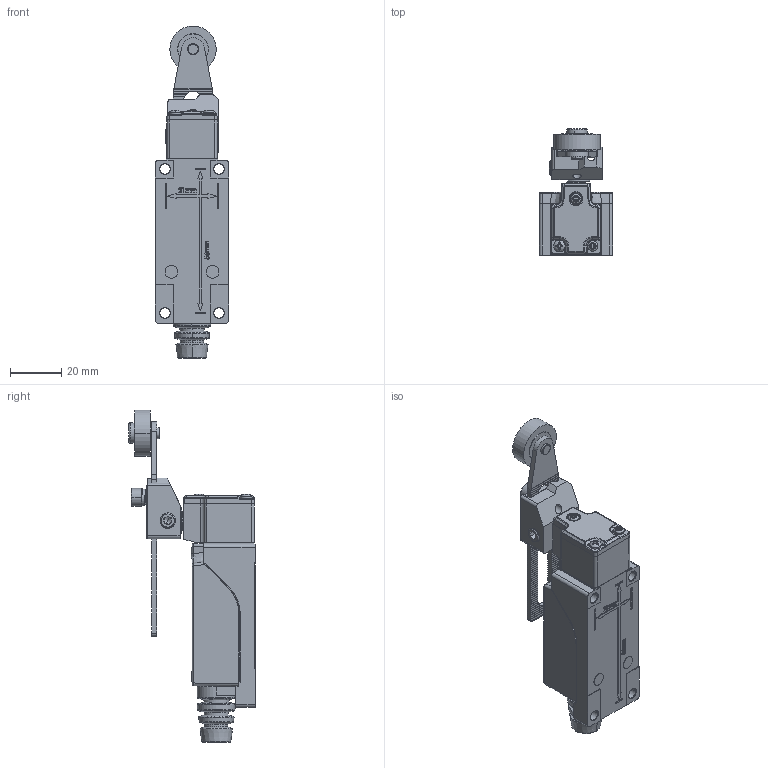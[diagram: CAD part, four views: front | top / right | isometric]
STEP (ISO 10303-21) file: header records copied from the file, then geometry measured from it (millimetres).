
FILE_DESCRIPTION((''),'2;1');
FILE_NAME('ALS1-M11_G1_ASM','2019-02-20T15:25:46',('1'),(''),'CREO PARAMETRIC BY PTC INC, 2016510','CREO PARAMETRIC BY PTC INC, 2016510','');
FILE_SCHEMA(('CONFIG_CONTROL_DESIGN'));
Products named in the file (1): ALS1-M11_G1_ASM
Bounding box: 28.5 x 49.1 x 129.14 mm (x, y, z)
Volume: 11722.7 mm3; surface area: 33978.9 mm2
Topology: 5 solids, 18 shells, 3135 faces, 9159 edges, 5907 vertices
Faces by surface type: plane 1765, cylinder 735, torus 219, cone 200, bspline 117, extrusion 61, sphere 38
Entity records: 128181 total; most frequent: CARTESIAN_POINT 45780, ORIENTED_EDGE 18071, DIRECTION 16139, EDGE_CURVE 9116, VECTOR 6001, LINE 5940, VERTEX_POINT 5906, AXIS2_PLACEMENT_3D 5069
